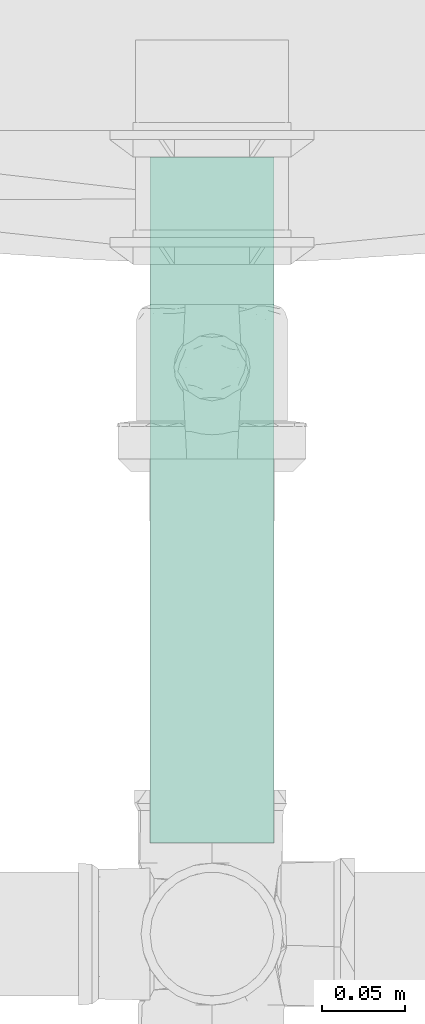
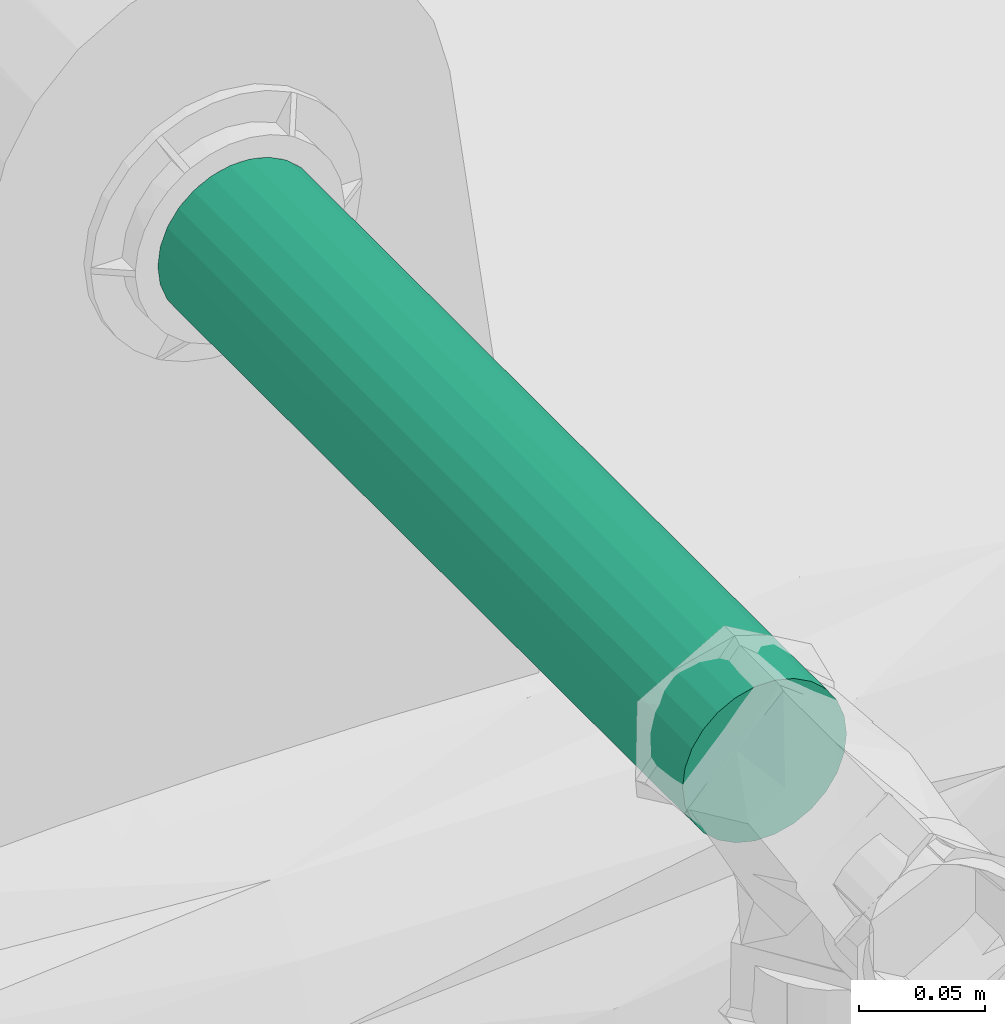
# One storey, part 61 of 166: 1 flow segment.
"""IFC2X3 building model written with IfcOpenShell, lengths in metres."""

from ifc_helpers import new_model, entity, si_unit, converted_unit, direction, frame, frame_2d, origin, place, context, subcontext, project, spatial, circle, extrude, type_object, element, save


model = new_model("IFC2X3")

# Units and contexts
model_context = context("Model", 3, precision=1e-05, world=origin(), true_north=direction((6.123233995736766e-17, 1.0)))
body_context = subcontext(model_context, "Body", "Model", "MODEL_VIEW")
ifc_project = project(units=[si_unit("LENGTHUNIT", "METRE"), converted_unit("PLANEANGLEUNIT", "DEGREE", entity("IfcPlaneAngleMeasure", 0.017453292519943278), si_unit("PLANEANGLEUNIT", "RADIAN"), dimensions=[0, 0, 0, 0, 0, 0, 0]), si_unit("AREAUNIT", "SQUARE_METRE")], contexts=[model_context])

# Site, building, storey
site_placement = place(None, origin())
site = spatial("IfcSite", under=ifc_project, at=site_placement, Name="Default", CompositionType="ELEMENT")
building_placement = place(site_placement, origin())
building = spatial("IfcBuilding", under=site, at=building_placement, Name="CASA DE ACOLHIDA PARA IDOSOS", CompositionType="ELEMENT")
storey_placement = place(building_placement, frame((0.0, 0.0, -1.7499999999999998)))
storey = spatial("IfcBuildingStorey", under=building, at=storey_placement, Name="IMPLANTAÇÃO DRENAGEM", CompositionType="ELEMENT", Elevation=-1.7499999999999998)

# Flow segment
pipe_segment_type = type_object("IfcPipeSegmentType", Name="Tipos de tubos:AF_Tubo Branco Roscável", PredefinedType="NOTDEFINED")
flow_segment_placement = place(storey_placement, origin())
element("IfcFlowSegment", 1, at=flow_segment_placement, inside=storey, type_object=pipe_segment_type, Name="Tipos de tubos:AF_Tubo Branco Roscável", ObjectType="Tipos de tubos:AF_Tubo Branco Roscável", context=body_context, shape_type="SweptSolid", body=[
    extrude(circle(Radius=0.037500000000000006, at=frame_2d((0.0, -1.353583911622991e-16), x_axis=(1.0, 0.0))), frame((-62.75891005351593, -0.19607816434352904, 2.615000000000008), z_axis=(0.0, 1.0, 0.0), x_axis=(-1.0, 0.0, 0.0)), (0.0, 0.0, 1.0), 0.4155000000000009),
])

save(model, "model.ifc")
